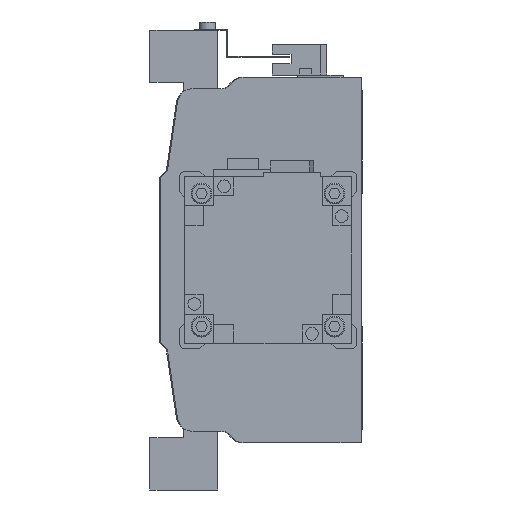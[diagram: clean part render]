
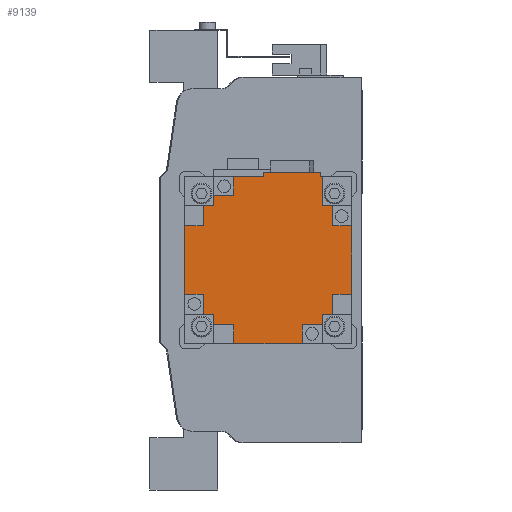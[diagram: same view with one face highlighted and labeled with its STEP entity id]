
A CAD part, left-side view. The second image highlights one B-rep face of the part: STEP entity #9139.
In plain terms, the highlighted planar face has unit normal (-1, 0, 0) as drawn and (0, 1, 0) by its records, which use the part's own axes.
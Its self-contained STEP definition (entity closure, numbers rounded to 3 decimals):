
#142=PLANE('',#9796);
#648=LINE('',#13510,#1699);
#657=LINE('',#13530,#1708);
#663=LINE('',#13542,#1714);
#666=LINE('',#13548,#1717);
#667=LINE('',#13551,#1718);
#668=LINE('',#13553,#1719);
#669=LINE('',#13555,#1720);
#670=LINE('',#13557,#1721);
#671=LINE('',#13559,#1722);
#672=LINE('',#13561,#1723);
#673=LINE('',#13563,#1724);
#674=LINE('',#13565,#1725);
#675=LINE('',#13567,#1726);
#676=LINE('',#13569,#1727);
#677=LINE('',#13571,#1728);
#678=LINE('',#13573,#1729);
#679=LINE('',#13575,#1730);
#680=LINE('',#13577,#1731);
#681=LINE('',#13579,#1732);
#682=LINE('',#13581,#1733);
#683=LINE('',#13583,#1734);
#684=LINE('',#13585,#1735);
#685=LINE('',#13587,#1736);
#686=LINE('',#13589,#1737);
#687=LINE('',#13590,#1738);
#688=LINE('',#13591,#1739);
#689=LINE('',#13592,#1740);
#690=LINE('',#13594,#1741);
#691=LINE('',#13596,#1742);
#692=LINE('',#13598,#1743);
#1699=VECTOR('',#10885,1000.);
#1708=VECTOR('',#10896,1000.);
#1714=VECTOR('',#10902,1000.);
#1717=VECTOR('',#10907,1000.);
#1718=VECTOR('',#10908,1000.);
#1719=VECTOR('',#10909,1000.);
#1720=VECTOR('',#10910,1000.);
#1721=VECTOR('',#10911,1000.);
#1722=VECTOR('',#10912,1000.);
#1723=VECTOR('',#10913,1000.);
#1724=VECTOR('',#10914,1000.);
#1725=VECTOR('',#10915,1000.);
#1726=VECTOR('',#10916,1000.);
#1727=VECTOR('',#10917,1000.);
#1728=VECTOR('',#10918,1000.);
#1729=VECTOR('',#10919,1000.);
#1730=VECTOR('',#10920,1000.);
#1731=VECTOR('',#10921,1000.);
#1732=VECTOR('',#10922,1000.);
#1733=VECTOR('',#10923,1000.);
#1734=VECTOR('',#10924,1000.);
#1735=VECTOR('',#10925,1000.);
#1736=VECTOR('',#10926,1000.);
#1737=VECTOR('',#10927,1000.);
#1738=VECTOR('',#10928,1000.);
#1739=VECTOR('',#10929,1000.);
#1740=VECTOR('',#10930,1000.);
#1741=VECTOR('',#10931,1000.);
#1742=VECTOR('',#10932,1000.);
#1743=VECTOR('',#10933,1000.);
#3037=ORIENTED_EDGE('',*,*,#5432,.T.);
#3038=ORIENTED_EDGE('',*,*,#5433,.T.);
#3039=ORIENTED_EDGE('',*,*,#5434,.T.);
#3040=ORIENTED_EDGE('',*,*,#5435,.T.);
#3041=ORIENTED_EDGE('',*,*,#5436,.T.);
#3042=ORIENTED_EDGE('',*,*,#5437,.F.);
#3043=ORIENTED_EDGE('',*,*,#5438,.F.);
#3044=ORIENTED_EDGE('',*,*,#5439,.T.);
#3045=ORIENTED_EDGE('',*,*,#5440,.T.);
#3046=ORIENTED_EDGE('',*,*,#5441,.T.);
#3047=ORIENTED_EDGE('',*,*,#5442,.T.);
#3048=ORIENTED_EDGE('',*,*,#5443,.T.);
#3049=ORIENTED_EDGE('',*,*,#5444,.F.);
#3050=ORIENTED_EDGE('',*,*,#5445,.F.);
#3051=ORIENTED_EDGE('',*,*,#5446,.T.);
#3052=ORIENTED_EDGE('',*,*,#5447,.T.);
#3053=ORIENTED_EDGE('',*,*,#5448,.T.);
#3054=ORIENTED_EDGE('',*,*,#5449,.T.);
#3055=ORIENTED_EDGE('',*,*,#5450,.T.);
#3056=ORIENTED_EDGE('',*,*,#5451,.F.);
#3057=ORIENTED_EDGE('',*,*,#5452,.F.);
#3058=ORIENTED_EDGE('',*,*,#5423,.T.);
#3059=ORIENTED_EDGE('',*,*,#5453,.F.);
#3060=ORIENTED_EDGE('',*,*,#5414,.F.);
#3061=ORIENTED_EDGE('',*,*,#5454,.T.);
#3062=ORIENTED_EDGE('',*,*,#5429,.T.);
#3063=ORIENTED_EDGE('',*,*,#5455,.T.);
#3064=ORIENTED_EDGE('',*,*,#5456,.T.);
#3065=ORIENTED_EDGE('',*,*,#5457,.F.);
#3066=ORIENTED_EDGE('',*,*,#5458,.F.);
#5414=EDGE_CURVE('',#6652,#6653,#648,.T.);
#5423=EDGE_CURVE('',#6662,#6660,#657,.T.);
#5429=EDGE_CURVE('',#6668,#6667,#663,.T.);
#5432=EDGE_CURVE('',#6670,#6671,#666,.T.);
#5433=EDGE_CURVE('',#6671,#6672,#667,.T.);
#5434=EDGE_CURVE('',#6672,#6673,#668,.T.);
#5435=EDGE_CURVE('',#6673,#6674,#669,.T.);
#5436=EDGE_CURVE('',#6674,#6675,#670,.T.);
#5437=EDGE_CURVE('',#6676,#6675,#671,.T.);
#5438=EDGE_CURVE('',#6677,#6676,#672,.T.);
#5439=EDGE_CURVE('',#6677,#6678,#673,.T.);
#5440=EDGE_CURVE('',#6678,#6679,#674,.T.);
#5441=EDGE_CURVE('',#6679,#6680,#675,.T.);
#5442=EDGE_CURVE('',#6680,#6681,#676,.T.);
#5443=EDGE_CURVE('',#6681,#6682,#677,.T.);
#5444=EDGE_CURVE('',#6683,#6682,#678,.T.);
#5445=EDGE_CURVE('',#6684,#6683,#679,.T.);
#5446=EDGE_CURVE('',#6684,#6685,#680,.T.);
#5447=EDGE_CURVE('',#6685,#6686,#681,.T.);
#5448=EDGE_CURVE('',#6686,#6687,#682,.T.);
#5449=EDGE_CURVE('',#6687,#6688,#683,.T.);
#5450=EDGE_CURVE('',#6688,#6689,#684,.T.);
#5451=EDGE_CURVE('',#6690,#6689,#685,.T.);
#5452=EDGE_CURVE('',#6662,#6690,#686,.T.);
#5453=EDGE_CURVE('',#6653,#6660,#687,.T.);
#5454=EDGE_CURVE('',#6652,#6668,#688,.T.);
#5455=EDGE_CURVE('',#6667,#6691,#689,.T.);
#5456=EDGE_CURVE('',#6691,#6692,#690,.T.);
#5457=EDGE_CURVE('',#6693,#6692,#691,.T.);
#5458=EDGE_CURVE('',#6670,#6693,#692,.T.);
#6652=VERTEX_POINT('',#13511);
#6653=VERTEX_POINT('',#13512);
#6660=VERTEX_POINT('',#13528);
#6662=VERTEX_POINT('',#13531);
#6667=VERTEX_POINT('',#13541);
#6668=VERTEX_POINT('',#13543);
#6670=VERTEX_POINT('',#13549);
#6671=VERTEX_POINT('',#13550);
#6672=VERTEX_POINT('',#13552);
#6673=VERTEX_POINT('',#13554);
#6674=VERTEX_POINT('',#13556);
#6675=VERTEX_POINT('',#13558);
#6676=VERTEX_POINT('',#13560);
#6677=VERTEX_POINT('',#13562);
#6678=VERTEX_POINT('',#13564);
#6679=VERTEX_POINT('',#13566);
#6680=VERTEX_POINT('',#13568);
#6681=VERTEX_POINT('',#13570);
#6682=VERTEX_POINT('',#13572);
#6683=VERTEX_POINT('',#13574);
#6684=VERTEX_POINT('',#13576);
#6685=VERTEX_POINT('',#13578);
#6686=VERTEX_POINT('',#13580);
#6687=VERTEX_POINT('',#13582);
#6688=VERTEX_POINT('',#13584);
#6689=VERTEX_POINT('',#13586);
#6690=VERTEX_POINT('',#13588);
#6691=VERTEX_POINT('',#13593);
#6692=VERTEX_POINT('',#13595);
#6693=VERTEX_POINT('',#13597);
#7741=EDGE_LOOP('',(#3037,#3038,#3039,#3040,#3041,#3042,#3043,#3044,#3045,
#3046,#3047,#3048,#3049,#3050,#3051,#3052,#3053,#3054,#3055,#3056,#3057,
#3058,#3059,#3060,#3061,#3062,#3063,#3064,#3065,#3066));
#8394=FACE_BOUND('',#7741,.T.);
#9139=ADVANCED_FACE('',(#8394),#142,.T.);
#9796=AXIS2_PLACEMENT_3D('',#13547,#10905,#10906);
#10885=DIRECTION('',(0.,0.,1.));
#10896=DIRECTION('',(0.,0.,-1.));
#10902=DIRECTION('',(0.,0.,-1.));
#10905=DIRECTION('',(0.,1.,0.));
#10906=DIRECTION('',(0.,0.,1.));
#10907=DIRECTION('',(-1.,0.,0.));
#10908=DIRECTION('',(0.,0.,-1.));
#10909=DIRECTION('',(-1.,0.,0.));
#10910=DIRECTION('',(0.,0.,1.));
#10911=DIRECTION('',(-1.,0.,0.));
#10912=DIRECTION('',(0.,0.,-1.));
#10913=DIRECTION('',(1.,0.,0.));
#10914=DIRECTION('',(0.,0.,1.));
#10915=DIRECTION('',(-1.,0.,0.));
#10916=DIRECTION('',(0.,0.,1.));
#10917=DIRECTION('',(1.,0.,0.));
#10918=DIRECTION('',(0.,0.,1.));
#10919=DIRECTION('',(-1.,0.,0.));
#10920=DIRECTION('',(0.,0.,-1.));
#10921=DIRECTION('',(1.,0.,0.));
#10922=DIRECTION('',(0.,0.,1.));
#10923=DIRECTION('',(1.,0.,0.));
#10924=DIRECTION('',(0.,0.,-1.));
#10925=DIRECTION('',(1.,0.,0.));
#10926=DIRECTION('',(0.,0.,1.));
#10927=DIRECTION('',(-1.,0.,0.));
#10928=DIRECTION('',(-1.,0.,0.));
#10929=DIRECTION('',(-1.,0.,0.));
#10930=DIRECTION('',(-1.,0.,0.));
#10931=DIRECTION('',(0.,0.,-1.));
#10932=DIRECTION('',(1.,0.,0.));
#10933=DIRECTION('',(0.,0.,1.));
#13510=CARTESIAN_POINT('',(42.,138.3,-2.2));
#13511=CARTESIAN_POINT('',(42.,138.3,-2.2));
#13512=CARTESIAN_POINT('',(42.,138.3,25.2));
#13528=CARTESIAN_POINT('',(39.95,138.3,25.2));
#13530=CARTESIAN_POINT('',(39.95,138.3,39.95));
#13531=CARTESIAN_POINT('',(39.95,138.3,25.95));
#13541=CARTESIAN_POINT('',(39.95,138.3,-16.35));
#13542=CARTESIAN_POINT('',(39.95,138.3,39.95));
#13543=CARTESIAN_POINT('',(39.95,138.3,-2.2));
#13547=CARTESIAN_POINT('',(0.,138.3,0.));
#13548=CARTESIAN_POINT('',(0.,138.3,-30.95));
#13549=CARTESIAN_POINT('',(25.95,138.3,-30.95));
#13550=CARTESIAN_POINT('',(16.35,138.3,-30.95));
#13551=CARTESIAN_POINT('',(16.35,138.3,0.));
#13552=CARTESIAN_POINT('',(16.35,138.3,-39.95));
#13553=CARTESIAN_POINT('',(39.95,138.3,-39.95));
#13554=CARTESIAN_POINT('',(-16.35,138.3,-39.95));
#13555=CARTESIAN_POINT('',(-16.35,138.3,0.));
#13556=CARTESIAN_POINT('',(-16.35,138.3,-30.95));
#13557=CARTESIAN_POINT('',(0.,138.3,-30.95));
#13558=CARTESIAN_POINT('',(-25.95,138.3,-30.95));
#13559=CARTESIAN_POINT('',(-25.95,138.3,0.));
#13560=CARTESIAN_POINT('',(-25.95,138.3,-25.95));
#13561=CARTESIAN_POINT('',(0.,138.3,-25.95));
#13562=CARTESIAN_POINT('',(-30.95,138.3,-25.95));
#13563=CARTESIAN_POINT('',(-30.95,138.3,0.));
#13564=CARTESIAN_POINT('',(-30.95,138.3,-16.35));
#13565=CARTESIAN_POINT('',(0.,138.3,-16.35));
#13566=CARTESIAN_POINT('',(-39.95,138.3,-16.35));
#13567=CARTESIAN_POINT('',(-39.95,138.3,-39.95));
#13568=CARTESIAN_POINT('',(-39.95,138.3,16.35));
#13569=CARTESIAN_POINT('',(0.,138.3,16.35));
#13570=CARTESIAN_POINT('',(-30.95,138.3,16.35));
#13571=CARTESIAN_POINT('',(-30.95,138.3,0.));
#13572=CARTESIAN_POINT('',(-30.95,138.3,25.95));
#13573=CARTESIAN_POINT('',(0.,138.3,25.95));
#13574=CARTESIAN_POINT('',(-25.95,138.3,25.95));
#13575=CARTESIAN_POINT('',(-25.95,138.3,0.));
#13576=CARTESIAN_POINT('',(-25.95,138.3,30.95));
#13577=CARTESIAN_POINT('',(0.,138.3,30.95));
#13578=CARTESIAN_POINT('',(-16.35,138.3,30.95));
#13579=CARTESIAN_POINT('',(-16.35,138.3,0.));
#13580=CARTESIAN_POINT('',(-16.35,138.3,39.95));
#13581=CARTESIAN_POINT('',(-39.95,138.3,39.95));
#13582=CARTESIAN_POINT('',(16.35,138.3,39.95));
#13583=CARTESIAN_POINT('',(16.35,138.3,0.));
#13584=CARTESIAN_POINT('',(16.35,138.3,30.95));
#13585=CARTESIAN_POINT('',(0.,138.3,30.95));
#13586=CARTESIAN_POINT('',(25.95,138.3,30.95));
#13587=CARTESIAN_POINT('',(25.95,138.3,0.));
#13588=CARTESIAN_POINT('',(25.95,138.3,25.95));
#13589=CARTESIAN_POINT('',(0.,138.3,25.95));
#13590=CARTESIAN_POINT('',(42.,138.3,25.2));
#13591=CARTESIAN_POINT('',(42.,138.3,-2.2));
#13592=CARTESIAN_POINT('',(0.,138.3,-16.35));
#13593=CARTESIAN_POINT('',(30.95,138.3,-16.35));
#13594=CARTESIAN_POINT('',(30.95,138.3,0.));
#13595=CARTESIAN_POINT('',(30.95,138.3,-25.95));
#13596=CARTESIAN_POINT('',(0.,138.3,-25.95));
#13597=CARTESIAN_POINT('',(25.95,138.3,-25.95));
#13598=CARTESIAN_POINT('',(25.95,138.3,0.));
